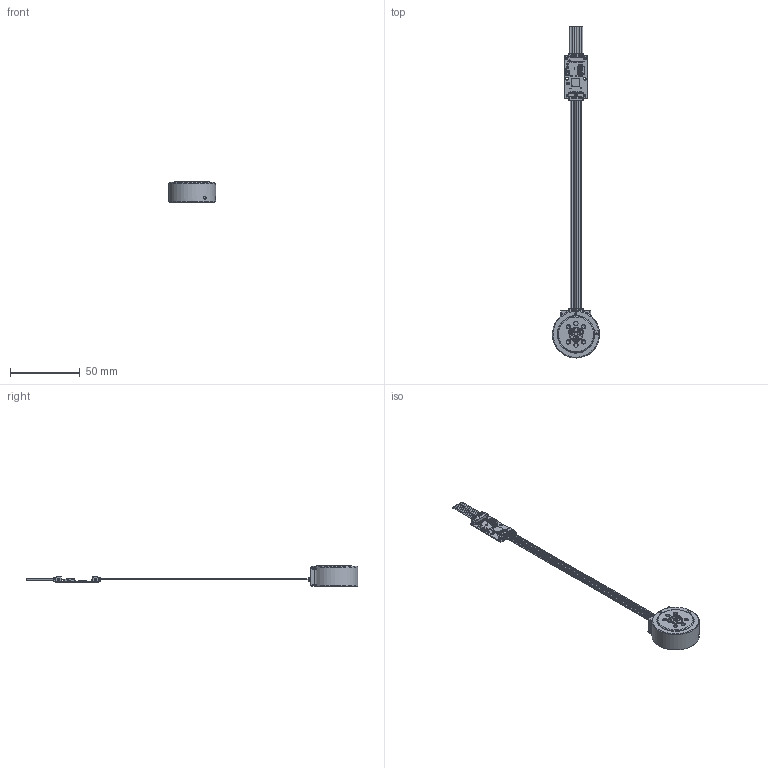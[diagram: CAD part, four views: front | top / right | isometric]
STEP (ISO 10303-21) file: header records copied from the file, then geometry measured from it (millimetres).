
FILE_DESCRIPTION (( 'STEP AP214' ), '1' );
FILE_NAME ('TactX GenA Series with Serial Adapter 3D File .STEP', '2026-04-27T10:00:06', ( '' ), ( '' ), 'SwSTEP 2.0', 'SolidWorks 2022', '' );
FILE_SCHEMA (( 'AUTOMOTIVE_DESIGN' ));
Length unit declared in the file: millimetre
Products named in the file (34): DIN 912 M2.5 x 6 --- 6S-A2-70-NT_DIN 912 M2.5 x 6 --- 6S-A2-70-NT; FP-C0402C105K8PACTU-MFG_CMP-2008-02081-2; FP-C0402-BB-MFG_CMP-03020-004622-1; FP-532610871-MFG_CMP-002-00128-2; 0151340702; MIN-P022_Thinner One side; MIN-P021_SE CUT 1; FP-C0402-BB-MFG_CMP-2008-02099-2; 91800A050_18-8 Stainless Steel Cheese Head Slotted Screw_91800A050; TactX_Serial_Adapter_BOARD; 2181120704_8P; MIN-P021_SE Cut 2; 416131160803_CMP-1433-00003-3; FP-53261-0771-MFG_CMP-04776-000278-1; MiniOne_Gen_B_TOP_-_SideConn-V2_BOARD; TactX_Serial_Adapter; ISO 14581 M2x8x8-S-A2-70-NT_ISO 14581 M2x8x8-S-A2-70-NT; FP-C3216-160-0_2-MFG_CMP-2000-06045-2; PAR-00006_PAR-00006; IPS-4056T-01Y900-Footprint-1_CMP-002-00146-1; FP-SIL0010A-MFG_CMP-04918-000097-1; 2181120704_01_8P; ISO 8734 - 1 x 3 - C1-m6-S-HR_ISO 8734 - 1 x 3 - C1-m6-S-HR; FP-CR0402-IPC_B_CMP-1011-00106-3; TactX GenA Series with Serial Adapter 3D File ; QFN50P600X600X100-41N_CMP-145-000000-2; RESC1005X40X25LL05T05_CMP-2000-07588-1_RESC1005X40X25LL05T05_CMP-2000-07588-1; MiniOne_Gen_B_TOP_-_SideConn-V2
Assembly tree (37 placements, depth 3):
  MIN-P021_SE CUT 1
  IPS-4056T-01Y900-Footprint-1_CMP-002-00146-1
  TactX GenA Series with Serial Adapter 3D File 
    MIN-P021_SE Cut 2
    MIN-P022_Thinner One side
    MiniOne_Gen_B_TOP_-_SideConn-V2
      MiniOne_Gen_B_TOP_-_SideConn-V2_BOARD
      FP-53261-0771-MFG_CMP-04776-000278-1
    91800A050_18-8 Stainless Steel Cheese Head Slotted Screw_91800A050
    91800A050_18-8 Stainless Steel Cheese Head Slotted Screw_91800A050
    91800A050_18-8 Stainless Steel Cheese Head Slotted Screw_91800A050
    DIN 912 M2.5 x 6 --- 6S-A2-70-NT_DIN 912 M2.5 x 6 --- 6S-A2-70-NT
    DIN 912 M2.5 x 6 --- 6S-A2-70-NT_DIN 912 M2.5 x 6 --- 6S-A2-70-NT
    DIN 912 M2.5 x 6 --- 6S-A2-70-NT_DIN 912 M2.5 x 6 --- 6S-A2-70-NT
    PAR-00006_PAR-00006
    PAR-00006_PAR-00006
    ISO 14581 M2x8x8-S-A2-70-NT_ISO 14581 M2x8x8-S-A2-70-NT  x3
    ISO 8734 - 1 x 3 - C1-m6-S-HR_ISO 8734 - 1 x 3 - C1-m6-S-HR
    0151340702
    TactX_Serial_Adapter
      TactX_Serial_Adapter_BOARD
      FP-SIL0010A-MFG_CMP-04918-000097-1
      RESC1005X40X25LL05T05_CMP-2000-07588-1_RESC1005X40X25LL05T05_CMP-2000-07588-1
      FP-C3216-160-0_2-MFG_CMP-2000-06045-2
      FP-532610871-MFG_CMP-002-00128-2
      FP-C0402-BB-MFG_CMP-2008-02099-2
      FP-CR0402-IPC_B_CMP-1011-00106-3
      FP-53261-0771-MFG_CMP-04776-000278-1
      QFN50P600X600X100-41N_CMP-145-000000-2
      416131160803_CMP-1433-00003-3
      FP-C0402C105K8PACTU-MFG_CMP-2008-02081-2  x2
      FP-C0402-BB-MFG_CMP-03020-004622-1  x4
    2181120704_8P
      2181120704_01_8P
Bounding box: 34.01 x 238.62 x 15 mm (x, y, z)
Volume: 9614.6 mm3; surface area: 13384.4 mm2
Topology: 206 solids, 206 shells, 7168 faces, 17958 edges, 11147 vertices
Faces by surface type: plane 4226, cylinder 1489, bspline 733, sphere 422, cone 203, torus 95
Full cylindrical faces by diameter (mm): 0.2 x1, 0.5 x4, 0.8 x3, 0.936 x8, 1 x1, 1.25 x2, 1.5 x4, 1.6 x2, 2 x53, 2.2 x4, 2.4 x3, 2.5 x10, 3 x4, 3.8 x3, 4.5 x3, 5.2 x3, 23.33 x1, 25.67 x1, 26 x2, 26.5 x1, 34 x1
Entity records: 205559 total; most frequent: CARTESIAN_POINT 49157, ORIENTED_EDGE 31972, DIRECTION 28206, EDGE_CURVE 15986, VECTOR 11574, LINE 11574, VERTEX_POINT 10086, AXIS2_PLACEMENT_3D 8316
